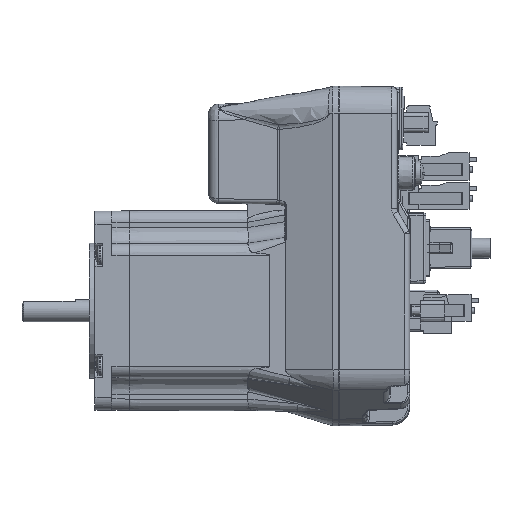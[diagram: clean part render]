
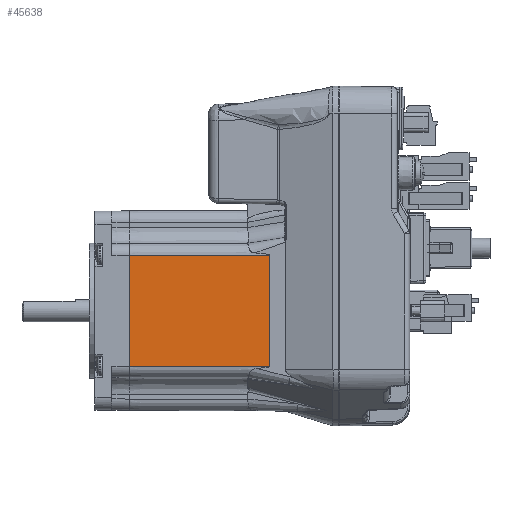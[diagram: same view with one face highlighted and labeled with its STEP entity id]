
A CAD part, left-side view. The second image highlights one B-rep face of the part: STEP entity #45638.
In plain terms, the highlighted planar face has unit normal (-1, 0.003, 0).
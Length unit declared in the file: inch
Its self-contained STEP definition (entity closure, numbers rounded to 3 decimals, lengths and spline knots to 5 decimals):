
#44764=CARTESIAN_POINT('',(-1.11043,2.97855,-0.61853));
#44765=VERTEX_POINT('',#44764);
#44773=CARTESIAN_POINT('',(-1.11043,2.97855,0.61853));
#44774=VERTEX_POINT('',#44773);
#44775=CARTESIAN_POINT('',(-1.11043,2.97855,-0.00039));
#44776=DIRECTION('',(0.,0.,1.));
#44777=VECTOR('',#44776,1.);
#44778=LINE('',#44775,#44777);
#44779=EDGE_CURVE('',#44765,#44774,#44778,.T.);
#45584=CARTESIAN_POINT('',(-1.1148,1.41715,-0.61853));
#45585=VERTEX_POINT('',#45584);
#45593=CARTESIAN_POINT('',(-1.11057,2.92855,-0.61853));
#45594=DIRECTION('',(-0.003,-1.,0.));
#45595=VECTOR('',#45594,1.);
#45596=LINE('',#45593,#45595);
#45597=EDGE_CURVE('',#44765,#45585,#45596,.T.);
#45615=ORIENTED_EDGE('',*,*,#45597,.T.);
#45616=CARTESIAN_POINT('',(-1.1148,1.41715,0.61853));
#45617=VERTEX_POINT('',#45616);
#45618=CARTESIAN_POINT('',(-1.1148,1.41715,-0.5836));
#45619=DIRECTION('',(0.,0.,-1.));
#45620=VECTOR('',#45619,1.);
#45621=LINE('',#45618,#45620);
#45622=EDGE_CURVE('',#45617,#45585,#45621,.T.);
#45623=ORIENTED_EDGE('',*,*,#45622,.F.);
#45624=CARTESIAN_POINT('',(-1.11057,2.92855,0.61853));
#45625=DIRECTION('',(-0.003,-1.,0.));
#45626=VECTOR('',#45625,1.);
#45627=LINE('',#45624,#45626);
#45628=EDGE_CURVE('',#44774,#45617,#45627,.T.);
#45629=ORIENTED_EDGE('',*,*,#45628,.F.);
#45630=ORIENTED_EDGE('',*,*,#44779,.F.);
#45631=EDGE_LOOP('',(#45615,#45623,#45629,#45630));
#45632=FACE_OUTER_BOUND('',#45631,.T.);
#45633=CARTESIAN_POINT('',(-1.11057,2.92855,-0.61853));
#45634=DIRECTION('',(-1.,0.003,0.));
#45635=DIRECTION('',(0.,0.,-1.));
#45636=AXIS2_PLACEMENT_3D('',#45633,#45634,#45635);
#45637=PLANE('',#45636);
#45638=ADVANCED_FACE('',(#45632),#45637,.T.);
